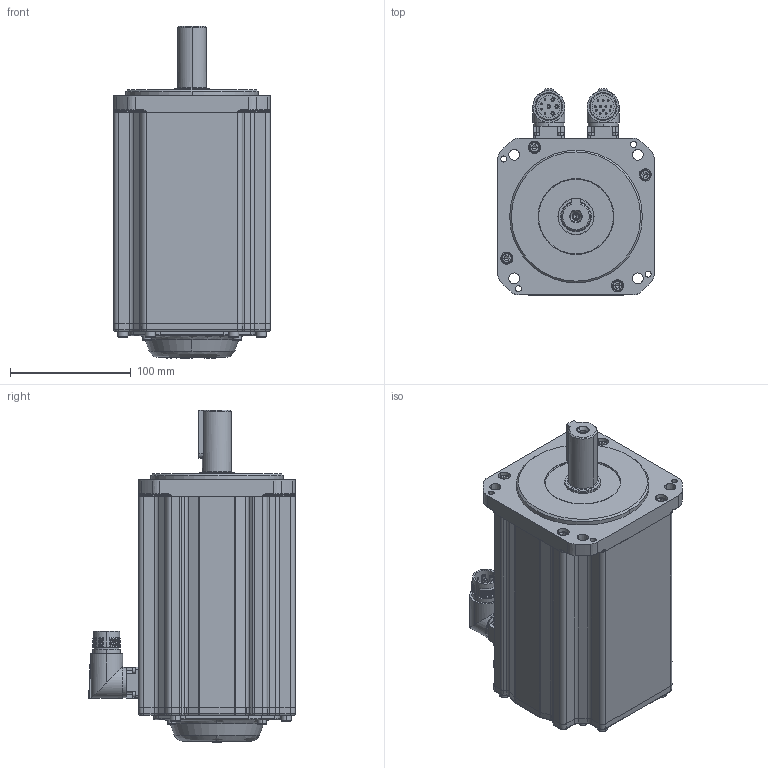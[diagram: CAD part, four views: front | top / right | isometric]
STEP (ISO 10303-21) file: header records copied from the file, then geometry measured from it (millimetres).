
FILE_DESCRIPTION (( 'STEP AP203' ), '1' );
FILE_NAME ('MC20-130-3M20-N302-0¡õPK-NNNN.STEP', '2025-05-04T14:06:46', ( '' ), ( '' ), 'SwSTEP 2.0', 'SolidWorks 2014', '' );
FILE_SCHEMA (( 'CONFIG_CONTROL_DESIGN' ));
Length unit declared in the file: millimetre
Products named in the file (1): MC20-130-3M20-N302-0¡õPK-NNNN
Bounding box: 130 x 171.35 x 275.3 mm (x, y, z)
Volume: 3176565.4 mm3; surface area: 297943.9 mm2
Topology: 28 solids, 28 shells, 2024 faces, 4803 edges, 2863 vertices
Faces by surface type: plane 735, cylinder 568, cone 357, bspline 204, torus 148, sphere 12
Entity records: 62226 total; most frequent: CARTESIAN_POINT 16865, DIRECTION 9530, ORIENTED_EDGE 9382, EDGE_CURVE 4691, AXIS2_PLACEMENT_3D 3694, VERTEX_POINT 2863, EDGE_LOOP 2270, VECTOR 2142
